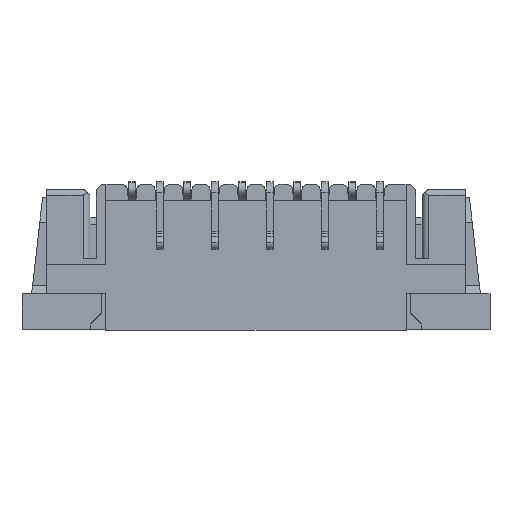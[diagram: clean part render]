
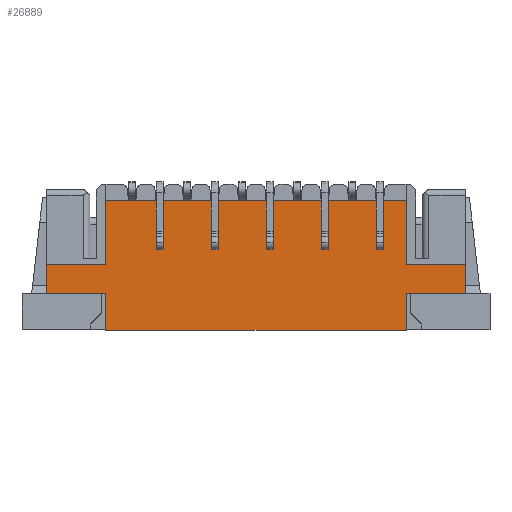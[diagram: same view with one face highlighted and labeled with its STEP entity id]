
A CAD part, top view. The second image highlights one B-rep face of the part: STEP entity #26889.
In plain terms, the highlighted planar face has unit normal (0, 0, 1).
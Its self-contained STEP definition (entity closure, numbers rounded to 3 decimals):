
#347 = PLANE ( 'NONE',  #27801 ) ;
#497 = VECTOR ( 'NONE', #35144, 1000. ) ;
#551 = EDGE_CURVE ( 'NONE', #25003, #44717, #22071, .T. ) ;
#917 = CARTESIAN_POINT ( 'NONE',  ( 5.45, -2.3, 0. ) ) ;
#1381 = VECTOR ( 'NONE', #47761, 1000. ) ;
#1645 = LINE ( 'NONE', #12911, #17410 ) ;
#2508 = CARTESIAN_POINT ( 'NONE',  ( -5.45, -4.7, 0. ) ) ;
#6175 = LINE ( 'NONE', #17465, #1381 ) ;
#7823 = VERTEX_POINT ( 'NONE', #20962 ) ;
#8363 = DIRECTION ( 'NONE',  ( 0., 0., 1. ) ) ;
#9141 = EDGE_CURVE ( 'NONE', #32231, #24499, #48434, .T. ) ;
#9612 = VECTOR ( 'NONE', #41243, 1000. ) ;
#9920 = EDGE_CURVE ( 'NONE', #45852, #20503, #17146, .T. ) ;
#10010 = ORIENTED_EDGE ( 'NONE', *, *, #25764, .T. ) ;
#10170 = VERTEX_POINT ( 'NONE', #46158 ) ;
#10322 = VECTOR ( 'NONE', #42145, 1000. ) ;
#11180 = VECTOR ( 'NONE', #20402, 1000. ) ;
#11498 = LINE ( 'NONE', #23515, #22970 ) ;
#12246 = CARTESIAN_POINT ( 'NONE',  ( 7.6, -3.37, 0. ) ) ;
#12911 = CARTESIAN_POINT ( 'NONE',  ( -7.6, 0.4, 0. ) ) ;
#13024 = ORIENTED_EDGE ( 'NONE', *, *, #42777, .T. ) ;
#13375 = EDGE_CURVE ( 'NONE', #32231, #44717, #11498, .T. ) ;
#14166 = ORIENTED_EDGE ( 'NONE', *, *, #29897, .T. ) ;
#14247 = EDGE_LOOP ( 'NONE', ( #37928, #40450, #20710, #14166, #13024, #29580, #47440, #10010, #45825, #36840, #23564, #16884 ) ) ;
#15964 = CARTESIAN_POINT ( 'NONE',  ( -7.6, -2.3, 0. ) ) ;
#16340 = EDGE_CURVE ( 'NONE', #10170, #25003, #26496, .T. ) ;
#16607 = EDGE_CURVE ( 'NONE', #43123, #23133, #32716, .T. ) ;
#16884 = ORIENTED_EDGE ( 'NONE', *, *, #9141, .T. ) ;
#17146 = LINE ( 'NONE', #28430, #11180 ) ;
#17410 = VECTOR ( 'NONE', #40171, 1000. ) ;
#17465 = CARTESIAN_POINT ( 'NONE',  ( 4.635, 0., 0. ) ) ;
#19511 = VECTOR ( 'NONE', #46555, 1000. ) ;
#19854 = LINE ( 'NONE', #32537, #497 ) ;
#19931 = VERTEX_POINT ( 'NONE', #36068 ) ;
#20402 = DIRECTION ( 'NONE',  ( 0., 1., 0. ) ) ;
#20503 = VERTEX_POINT ( 'NONE', #24116 ) ;
#20710 = ORIENTED_EDGE ( 'NONE', *, *, #34075, .F. ) ;
#20805 = EDGE_CURVE ( 'NONE', #23133, #48997, #21269, .T. ) ;
#20962 = CARTESIAN_POINT ( 'NONE',  ( -7.6, -2.3, 0. ) ) ;
#21269 = LINE ( 'NONE', #2508, #23392 ) ;
#22071 = LINE ( 'NONE', #12246, #19511 ) ;
#22970 = VECTOR ( 'NONE', #38780, 1000. ) ;
#23133 = VERTEX_POINT ( 'NONE', #39650 ) ;
#23220 = CARTESIAN_POINT ( 'NONE',  ( 5.45, -3.37, 0. ) ) ;
#23392 = VECTOR ( 'NONE', #36810, 1000. ) ;
#23515 = CARTESIAN_POINT ( 'NONE',  ( 5.45, -2.3, 0. ) ) ;
#23564 = ORIENTED_EDGE ( 'NONE', *, *, #13375, .F. ) ;
#24116 = CARTESIAN_POINT ( 'NONE',  ( -5.45, 0., 0. ) ) ;
#24499 = VERTEX_POINT ( 'NONE', #36608 ) ;
#25003 = VERTEX_POINT ( 'NONE', #30030 ) ;
#25764 = EDGE_CURVE ( 'NONE', #48997, #10170, #46369, .T. ) ;
#26496 = LINE ( 'NONE', #23220, #9612 ) ;
#26889 = ADVANCED_FACE ( 'NONE', ( #45923 ), #347, .T. ) ;
#27801 = AXIS2_PLACEMENT_3D ( 'NONE', #42168, #8363, #31407 ) ;
#27955 = CARTESIAN_POINT ( 'NONE',  ( 5.45, -4.7, 0. ) ) ;
#28228 = DIRECTION ( 'NONE',  ( 1., 0., 0. ) ) ;
#28430 = CARTESIAN_POINT ( 'NONE',  ( -5.45, -2.3, 0. ) ) ;
#28751 = CARTESIAN_POINT ( 'NONE',  ( -5.45, -3.37, 0. ) ) ;
#29450 = EDGE_CURVE ( 'NONE', #24499, #20503, #6175, .T. ) ;
#29580 = ORIENTED_EDGE ( 'NONE', *, *, #16607, .T. ) ;
#29897 = EDGE_CURVE ( 'NONE', #7823, #19931, #1645, .T. ) ;
#30030 = CARTESIAN_POINT ( 'NONE',  ( 7.6, -3.37, 0. ) ) ;
#31407 = DIRECTION ( 'NONE',  ( 1., 0., 0. ) ) ;
#31575 = DIRECTION ( 'NONE',  ( 0., 1., 0. ) ) ;
#32231 = VERTEX_POINT ( 'NONE', #917 ) ;
#32537 = CARTESIAN_POINT ( 'NONE',  ( -7.6, -3.37, 0. ) ) ;
#32716 = LINE ( 'NONE', #47992, #40832 ) ;
#33669 = CARTESIAN_POINT ( 'NONE',  ( 5.45, -2.3, 0. ) ) ;
#34075 = EDGE_CURVE ( 'NONE', #7823, #45852, #43234, .T. ) ;
#35144 = DIRECTION ( 'NONE',  ( 1., 0., 0. ) ) ;
#36068 = CARTESIAN_POINT ( 'NONE',  ( -7.6, -3.37, 0. ) ) ;
#36608 = CARTESIAN_POINT ( 'NONE',  ( 5.45, 0., 0. ) ) ;
#36810 = DIRECTION ( 'NONE',  ( 1., 0., 0. ) ) ;
#36840 = ORIENTED_EDGE ( 'NONE', *, *, #551, .T. ) ;
#37928 = ORIENTED_EDGE ( 'NONE', *, *, #29450, .T. ) ;
#38096 = VECTOR ( 'NONE', #31575, 1000. ) ;
#38780 = DIRECTION ( 'NONE',  ( 1., 0., 0. ) ) ;
#38797 = VECTOR ( 'NONE', #28228, 1000. ) ;
#39327 = CARTESIAN_POINT ( 'NONE',  ( 5.45, -4.7, 0. ) ) ;
#39650 = CARTESIAN_POINT ( 'NONE',  ( -5.45, -4.7, 0. ) ) ;
#39686 = CARTESIAN_POINT ( 'NONE',  ( 7.6, -2.3, 0. ) ) ;
#40171 = DIRECTION ( 'NONE',  ( 0., -1., 0. ) ) ;
#40450 = ORIENTED_EDGE ( 'NONE', *, *, #9920, .F. ) ;
#40832 = VECTOR ( 'NONE', #43719, 1000. ) ;
#41243 = DIRECTION ( 'NONE',  ( 1., 0., 0. ) ) ;
#41837 = CARTESIAN_POINT ( 'NONE',  ( -5.45, -2.3, 0. ) ) ;
#42145 = DIRECTION ( 'NONE',  ( 0., 1., 0. ) ) ;
#42168 = CARTESIAN_POINT ( 'NONE',  ( 4.871, 0.4, 0. ) ) ;
#42777 = EDGE_CURVE ( 'NONE', #19931, #43123, #19854, .T. ) ;
#43123 = VERTEX_POINT ( 'NONE', #28751 ) ;
#43234 = LINE ( 'NONE', #15964, #38797 ) ;
#43719 = DIRECTION ( 'NONE',  ( 0., -1., 0. ) ) ;
#44717 = VERTEX_POINT ( 'NONE', #39686 ) ;
#45825 = ORIENTED_EDGE ( 'NONE', *, *, #16340, .T. ) ;
#45852 = VERTEX_POINT ( 'NONE', #41837 ) ;
#45923 = FACE_OUTER_BOUND ( 'NONE', #14247, .T. ) ;
#46158 = CARTESIAN_POINT ( 'NONE',  ( 5.45, -3.37, 0. ) ) ;
#46369 = LINE ( 'NONE', #39327, #38096 ) ;
#46555 = DIRECTION ( 'NONE',  ( 0., 1., 0. ) ) ;
#47440 = ORIENTED_EDGE ( 'NONE', *, *, #20805, .T. ) ;
#47761 = DIRECTION ( 'NONE',  ( -1., 0., 0. ) ) ;
#47992 = CARTESIAN_POINT ( 'NONE',  ( -5.45, -3.37, 0. ) ) ;
#48434 = LINE ( 'NONE', #33669, #10322 ) ;
#48997 = VERTEX_POINT ( 'NONE', #27955 ) ;
